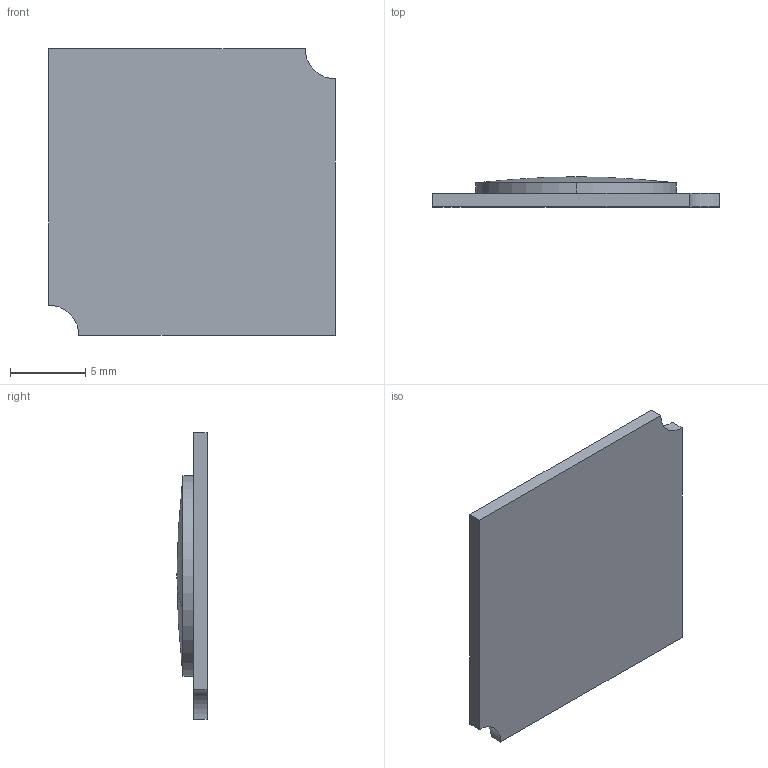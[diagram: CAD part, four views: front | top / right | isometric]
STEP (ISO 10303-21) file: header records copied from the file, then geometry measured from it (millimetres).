
FILE_DESCRIPTION (( 'STEP AP214' ), '1' );
FILE_NAME ('UD320_3D.STEP', '2025-03-14T09:39:22', ( '' ), ( '' ), 'SwSTEP 2.0', 'SolidWorks 2023', '' );
FILE_SCHEMA (( 'AUTOMOTIVE_DESIGN' ));
Length unit declared in the file: millimetre
Products named in the file (3): UD320_3D; UD320_resin_3D
Assembly tree (2 placements, depth 2):
  UD320_3D
    UD320_3D
    UD320_resin_3D
Bounding box: 19 x 2 x 19 mm (x, y, z)
Volume: 443.7 mm3; surface area: 1129.8 mm2
Topology: 2 solids, 2 shells, 111 faces, 283 edges, 189 vertices
Faces by surface type: plane 60, cylinder 49, sphere 2
Entity records: 3475 total; most frequent: DIRECTION 617, CARTESIAN_POINT 588, ORIENTED_EDGE 566, EDGE_CURVE 283, AXIS2_PLACEMENT_3D 218, VERTEX_POINT 189, VECTOR 181, LINE 181
